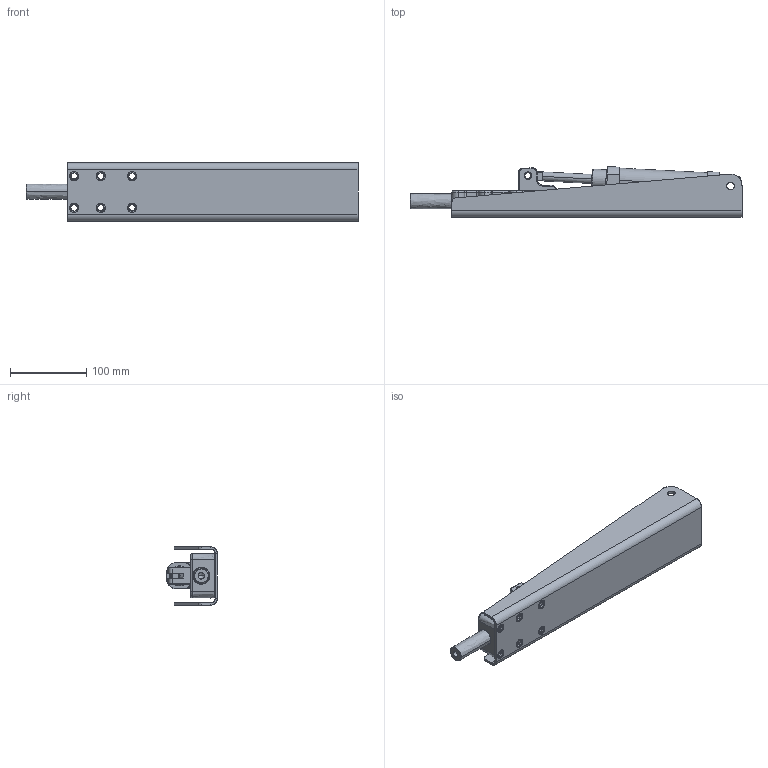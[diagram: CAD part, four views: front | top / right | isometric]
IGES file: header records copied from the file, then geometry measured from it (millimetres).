
Start section: SolidWorks IGES file using analytic representation for surfaces
Global section: file name: D:\GH Files\GH-SW-FILES\GH-A\31200A\31200HLA.IGS; native system: SolidWorks 2006 by SolidWorks Corporation; preprocessor: SolidWorks 2006 by SolidWorks Corporation; author: Administrator; date: 060526.120437; units: millimetre
Bounding box: 435.01 x 66.54 x 76.5 mm (x, y, z)
Surface area: 227392.8 mm2 (no closed solid volume)
Topology: 0 solids, 0 shells, 489 faces, 7137 edges, 7123 vertices
Faces by surface type: revolution 285, bspline 204
